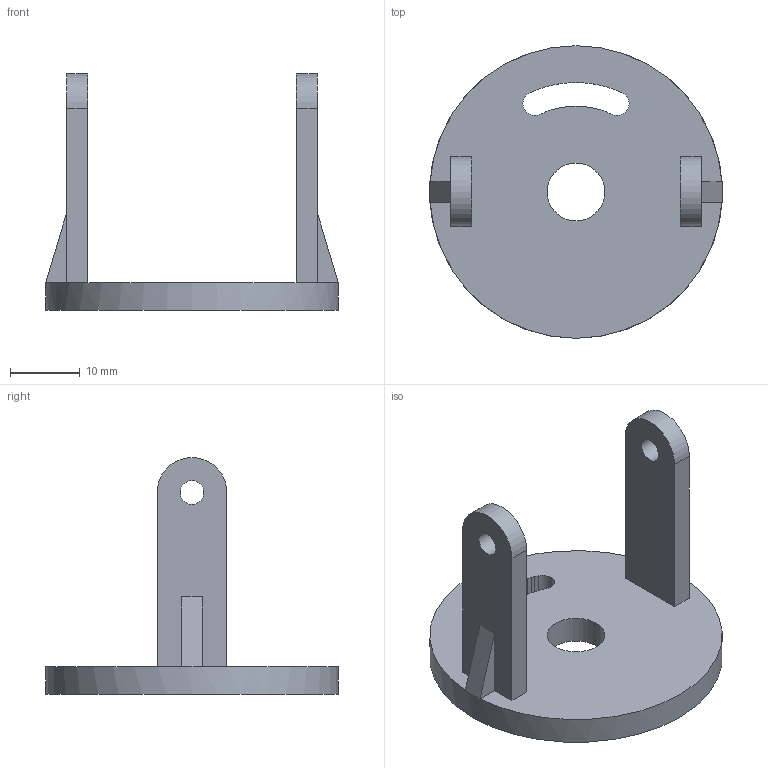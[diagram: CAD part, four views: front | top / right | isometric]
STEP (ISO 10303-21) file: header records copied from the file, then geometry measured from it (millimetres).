
FILE_DESCRIPTION(('Open CASCADE Model'),'2;1');
FILE_NAME('Open CASCADE Shape Model','2026-10-05T16:07:19',('Author'),( 'Open CASCADE'),'Open CASCADE STEP processor 7.9','Open CASCADE 7.9' ,'Unknown');
FILE_SCHEMA(('AUTOMOTIVE_DESIGN { 1 0 10303 214 1 1 1 1 }'));
Length unit declared in the file: millimetre
Products named in the file (1): Open CASCADE STEP translator 7.9 4
Bounding box: 42 x 42 x 34 mm (x, y, z)
Volume: 6894.1 mm3; surface area: 4898 mm2
Topology: 1 solids, 1 shells, 76 faces, 215 edges, 141 vertices
Faces by surface type: plane 68, cylinder 8
Full cylindrical faces by diameter (mm): 3.4 x2, 8.3 x1, 42 x1
Entity records: 5048 total; most frequent: CARTESIAN_POINT 1114, DIRECTION 599, ORIENTED_EDGE 430, PCURVE 430, DEFINITIONAL_REPRESENTATION 430, LINE 388, VECTOR 388, EDGE_CURVE 215
